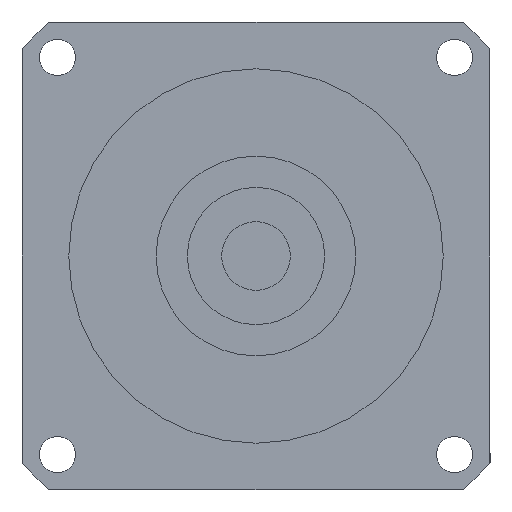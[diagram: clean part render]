
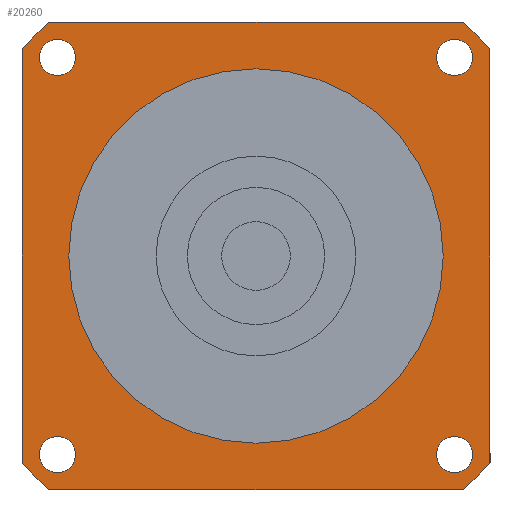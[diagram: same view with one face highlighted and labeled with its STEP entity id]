
A CAD part, left-side view. The second image highlights one B-rep face of the part: STEP entity #20260.
In plain terms, the highlighted planar face has unit normal (-1, 0, 0) as drawn and (0, 0, -1) by its records, which use the part's own axes.
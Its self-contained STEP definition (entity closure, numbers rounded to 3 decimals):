
#11110=CARTESIAN_POINT('',(-37.5,33.072,-60.));
#11120=VERTEX_POINT('',#11110);
#11270=CARTESIAN_POINT('',(-37.5,-33.072,-60.));
#11280=VERTEX_POINT('',#11270);
#11310=CARTESIAN_POINT('',(-37.5,37.5,-60.));
#11320=DIRECTION('',(0.,-1.,0.));
#11330=VECTOR('',#11320,1000.);
#11340=LINE('',#11310,#11330);
#11350=EDGE_CURVE('',#11120,#11280,#11340,.T.);
#12930=CARTESIAN_POINT('',(-33.072,-37.5,-60.));
#12940=VERTEX_POINT('',#12930);
#12970=CARTESIAN_POINT('',(0.,0.,
-60.));
#12980=DIRECTION('',(0.,0.,1.));
#12990=DIRECTION('',(0.,-1.,0.));
#13000=AXIS2_PLACEMENT_3D('',#12970,#12980,#12990);
#13010=CIRCLE('',#13000,50.);
#13020=EDGE_CURVE('',#11280,#12940,#13010,.T.);
#17850=CARTESIAN_POINT('',(-33.072,37.5,-60.));
#17860=VERTEX_POINT('',#17850);
#17910=CARTESIAN_POINT('',(0.,0.,
-60.));
#17920=DIRECTION('',(0.,0.,1.));
#17930=DIRECTION('',(0.,-1.,0.));
#17940=AXIS2_PLACEMENT_3D('',#17910,#17920,#17930);
#17950=CIRCLE('',#17940,50.);
#17960=EDGE_CURVE('',#17860,#11120,#17950,.T.);
#18100=CARTESIAN_POINT('',(33.072,37.5,-60.));
#18110=VERTEX_POINT('',#18100);
#18160=CARTESIAN_POINT('',(37.5,37.5,-60.));
#18170=DIRECTION('',(-1.,0.,0.));
#18180=VECTOR('',#18170,1000.);
#18190=LINE('',#18160,#18180);
#18200=EDGE_CURVE('',#18110,#17860,#18190,.T.);
#18310=CARTESIAN_POINT('',(0.,0.,
-60.));
#18320=DIRECTION('',(0.,0.,1.));
#18330=DIRECTION('',(0.,-1.,0.));
#18340=AXIS2_PLACEMENT_3D('',#18310,#18320,#18330);
#18350=CIRCLE('',#18340,50.);
#18360=CARTESIAN_POINT('',(37.5,33.072,-60.));
#18370=VERTEX_POINT('',#18360);
#18380=EDGE_CURVE('',#18370,#18110,#18350,.T.);
#18590=CARTESIAN_POINT('',(37.5,-33.072,-60.));
#18600=VERTEX_POINT('',#18590);
#18650=CARTESIAN_POINT('',(37.5,-37.5,-60.));
#18660=DIRECTION('',(0.,1.,0.));
#18670=VECTOR('',#18660,1000.);
#18680=LINE('',#18650,#18670);
#18690=EDGE_CURVE('',#18600,#18370,#18680,.T.);
#18830=CARTESIAN_POINT('',(33.072,-37.5,-60.));
#18840=VERTEX_POINT('',#18830);
#18890=CARTESIAN_POINT('',(0.,0.,
-60.));
#18900=DIRECTION('',(0.,0.,1.));
#18910=DIRECTION('',(0.,-1.,0.));
#18920=AXIS2_PLACEMENT_3D('',#18890,#18900,#18910);
#18930=CIRCLE('',#18920,50.);
#18940=EDGE_CURVE('',#18840,#18600,#18930,.T.);
#19070=CARTESIAN_POINT('',(-37.5,-37.5,-60.));
#19080=DIRECTION('',(1.,0.,0.));
#19090=VECTOR('',#19080,1000.);
#19100=LINE('',#19070,#19090);
#19110=EDGE_CURVE('',#12940,#18840,#19100,.T.);
#19160=CARTESIAN_POINT('',(-37.5,37.5,-60.));
#19170=DIRECTION('',(0.,0.,1.));
#19180=DIRECTION('',(-1.,0.,0.));
#19190=AXIS2_PLACEMENT_3D('',#19160,#19170,#19180);
#19200=PLANE('',#19190);
#19210=CARTESIAN_POINT('',(31.82,-31.82,-60.));
#19220=DIRECTION('',(0.,0.,-1.));
#19230=DIRECTION('',(1.,0.,0.));
#19240=AXIS2_PLACEMENT_3D('',#19210,#19220,#19230);
#19250=CIRCLE('',#19240,2.9);
#19260=CARTESIAN_POINT('',(34.72,-31.82,-60.));
#19270=VERTEX_POINT('',#19260);
#19280=CARTESIAN_POINT('',(31.82,-34.72,-60.));
#19290=VERTEX_POINT('',#19280);
#19300=EDGE_CURVE('',#19270,#19290,#19250,.T.);
#19310=ORIENTED_EDGE('',*,*,#19300,.F.);
#19320=CARTESIAN_POINT('',(31.82,-28.92,-60.));
#19330=VERTEX_POINT('',#19320);
#19340=EDGE_CURVE('',#19290,#19330,#19250,.T.);
#19350=ORIENTED_EDGE('',*,*,#19340,.F.);
#19360=EDGE_CURVE('',#19330,#19270,#19250,.T.);
#19370=ORIENTED_EDGE('',*,*,#19360,.F.);
#19380=EDGE_LOOP('',(#19370,#19350,#19310));
#19390=FACE_BOUND('',#19380,.T.);
#19400=CARTESIAN_POINT('',(31.82,31.82,-60.));
#19410=DIRECTION('',(0.,0.,-1.));
#19420=DIRECTION('',(0.,1.,0.));
#19430=AXIS2_PLACEMENT_3D('',#19400,#19410,#19420);
#19440=CIRCLE('',#19430,2.9);
#19450=CARTESIAN_POINT('',(31.82,34.72,-60.));
#19460=VERTEX_POINT('',#19450);
#19470=CARTESIAN_POINT('',(34.72,31.82,-60.));
#19480=VERTEX_POINT('',#19470);
#19490=EDGE_CURVE('',#19460,#19480,#19440,.T.);
#19500=ORIENTED_EDGE('',*,*,#19490,.F.);
#19510=CARTESIAN_POINT('',(28.92,31.82,-60.));
#19520=VERTEX_POINT('',#19510);
#19530=EDGE_CURVE('',#19480,#19520,#19440,.T.);
#19540=ORIENTED_EDGE('',*,*,#19530,.F.);
#19550=EDGE_CURVE('',#19520,#19460,#19440,.T.);
#19560=ORIENTED_EDGE('',*,*,#19550,.F.);
#19570=EDGE_LOOP('',(#19560,#19540,#19500));
#19580=FACE_BOUND('',#19570,.T.);
#19590=CARTESIAN_POINT('',(-31.82,31.82,-60.));
#19600=DIRECTION('',(0.,0.,-1.));
#19610=DIRECTION('',(-1.,0.,0.));
#19620=AXIS2_PLACEMENT_3D('',#19590,#19600,#19610);
#19630=CIRCLE('',#19620,2.9);
#19640=CARTESIAN_POINT('',(-34.72,31.82,-60.));
#19650=VERTEX_POINT('',#19640);
#19660=CARTESIAN_POINT('',(-31.82,34.72,-60.));
#19670=VERTEX_POINT('',#19660);
#19680=EDGE_CURVE('',#19650,#19670,#19630,.T.);
#19690=ORIENTED_EDGE('',*,*,#19680,.F.);
#19700=CARTESIAN_POINT('',(-31.82,28.92,-60.));
#19710=VERTEX_POINT('',#19700);
#19720=EDGE_CURVE('',#19670,#19710,#19630,.T.);
#19730=ORIENTED_EDGE('',*,*,#19720,.F.);
#19740=EDGE_CURVE('',#19710,#19650,#19630,.T.);
#19750=ORIENTED_EDGE('',*,*,#19740,.F.);
#19760=EDGE_LOOP('',(#19750,#19730,#19690));
#19770=FACE_BOUND('',#19760,.T.);
#19780=CARTESIAN_POINT('',(-31.82,-31.82,-60.));
#19790=DIRECTION('',(0.,0.,-1.));
#19800=DIRECTION('',(0.,-1.,0.));
#19810=AXIS2_PLACEMENT_3D('',#19780,#19790,#19800);
#19820=CIRCLE('',#19810,2.9);
#19830=CARTESIAN_POINT('',(-31.82,-34.72,-60.));
#19840=VERTEX_POINT('',#19830);
#19850=CARTESIAN_POINT('',(-34.72,-31.82,-60.));
#19860=VERTEX_POINT('',#19850);
#19870=EDGE_CURVE('',#19840,#19860,#19820,.T.);
#19880=ORIENTED_EDGE('',*,*,#19870,.F.);
#19890=CARTESIAN_POINT('',(-28.92,-31.82,-60.));
#19900=VERTEX_POINT('',#19890);
#19910=EDGE_CURVE('',#19860,#19900,#19820,.T.);
#19920=ORIENTED_EDGE('',*,*,#19910,.F.);
#19930=EDGE_CURVE('',#19900,#19840,#19820,.T.);
#19940=ORIENTED_EDGE('',*,*,#19930,.F.);
#19950=EDGE_LOOP('',(#19940,#19920,#19880));
#19960=FACE_BOUND('',#19950,.T.);
#19970=ORIENTED_EDGE('',*,*,#13020,.F.);
#19980=ORIENTED_EDGE('',*,*,#19110,.F.);
#19990=ORIENTED_EDGE('',*,*,#18940,.F.);
#20000=ORIENTED_EDGE('',*,*,#18690,.F.);
#20010=ORIENTED_EDGE('',*,*,#18380,.F.);
#20020=ORIENTED_EDGE('',*,*,#18200,.F.);
#20030=ORIENTED_EDGE('',*,*,#17960,.F.);
#20040=ORIENTED_EDGE('',*,*,#11350,.F.);
#20050=EDGE_LOOP('',(#20040,#20030,#20020,#20010,#20000,#19990,#19980,
#19970));
#20060=FACE_OUTER_BOUND('',#20050,.T.);
#20070=CARTESIAN_POINT('',(0.,0.,
-60.));
#20080=DIRECTION('',(0.,0.,1.));
#20090=DIRECTION('',(0.,-1.,0.));
#20100=AXIS2_PLACEMENT_3D('',#20070,#20080,#20090);
#20110=CIRCLE('',#20100,30.);
#20120=CARTESIAN_POINT('',(30.,0.,-60.));
#20130=VERTEX_POINT('',#20120);
#20140=CARTESIAN_POINT('',(-30.,0.,-60.));
#20150=VERTEX_POINT('',#20140);
#20160=EDGE_CURVE('',#20130,#20150,#20110,.T.);
#20170=ORIENTED_EDGE('',*,*,#20160,.T.);
#20180=CARTESIAN_POINT('',(0.,-30.,-60.));
#20190=VERTEX_POINT('',#20180);
#20200=EDGE_CURVE('',#20190,#20130,#20110,.T.);
#20210=ORIENTED_EDGE('',*,*,#20200,.T.);
#20220=EDGE_CURVE('',#20150,#20190,#20110,.T.);
#20230=ORIENTED_EDGE('',*,*,#20220,.T.);
#20240=EDGE_LOOP('',(#20230,#20210,#20170));
#20250=FACE_BOUND('',#20240,.T.);
#20260=ADVANCED_FACE('',(#19390,#19580,#19770,#19960,#20060,#20250),
#19200,.F.);
